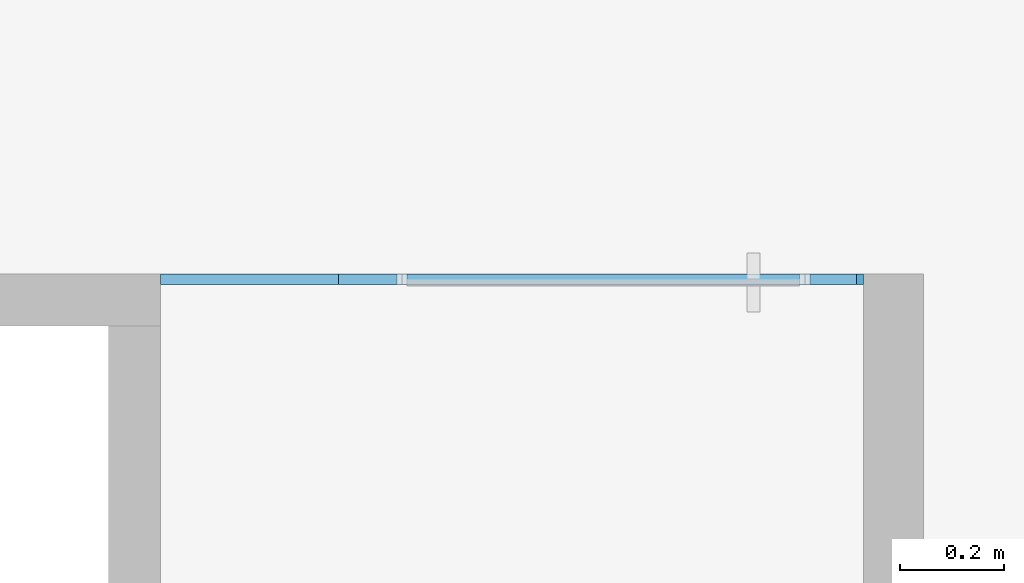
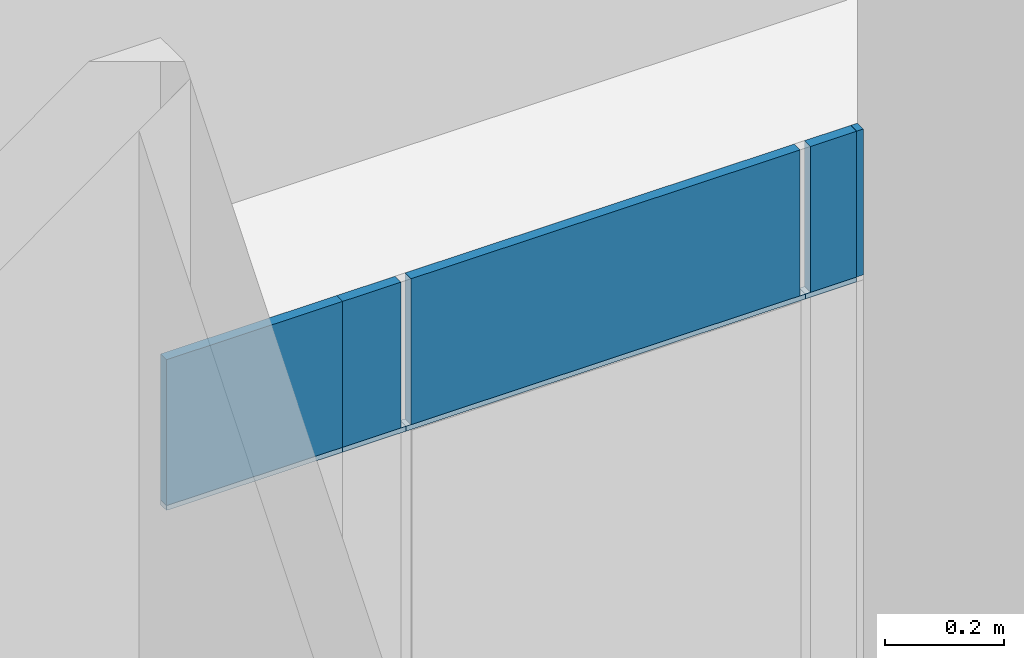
# One storey, part 32 of 66: 9 plates, 1 element without a shape of its own.
"""IFC2X3 building model written with IfcOpenShell, lengths in millimetres."""

from ifc_helpers import new_model, entity, si_unit, converted_unit, derived_unit, direction, frame, origin, origin_2d_with_axis, place, context, subcontext, project, spatial, rectangle, extrude, source, transform, mapped, material, layer, layer_set, layer_usage, type_object, type_shapes, element, aggregate, save


model = new_model("IFC2X3")

# Units and contexts
model_context = context("Model", 3, precision=0.01, world=origin(), true_north=direction((6.12303176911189e-17, 1.0)))
body_context = subcontext(model_context, "Body", "Model", "MODEL_VIEW")
ifc_project = project(units=[si_unit("LENGTHUNIT", "METRE", prefix="MILLI"), si_unit("AREAUNIT", "SQUARE_METRE"), si_unit("VOLUMEUNIT", "CUBIC_METRE"), converted_unit("PLANEANGLEUNIT", "DEGREE", entity("IfcRatioMeasure", 0.0174532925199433), si_unit("PLANEANGLEUNIT", "RADIAN"), dimensions=[0, 0, 0, 0, 0, 0, 0]), si_unit("MASSUNIT", "GRAM", prefix="KILO"), derived_unit("MASSDENSITYUNIT", [(si_unit("MASSUNIT", "GRAM", prefix="KILO"), 1), (si_unit("LENGTHUNIT", "METRE"), -3)]), si_unit("TIMEUNIT", "SECOND"), si_unit("FREQUENCYUNIT", "HERTZ"), si_unit("THERMODYNAMICTEMPERATUREUNIT", "DEGREE_CELSIUS"), derived_unit("THERMALTRANSMITTANCEUNIT", [(si_unit("MASSUNIT", "GRAM", prefix="KILO"), 1), (si_unit("THERMODYNAMICTEMPERATUREUNIT", "KELVIN"), -1), (si_unit("TIMEUNIT", "SECOND"), -3)]), derived_unit("VOLUMETRICFLOWRATEUNIT", [(si_unit("LENGTHUNIT", "METRE"), 3), (si_unit("TIMEUNIT", "SECOND"), -1)]), si_unit("ELECTRICCURRENTUNIT", "AMPERE"), si_unit("ELECTRICVOLTAGEUNIT", "VOLT"), si_unit("POWERUNIT", "WATT"), si_unit("FORCEUNIT", "NEWTON", prefix="KILO"), si_unit("ILLUMINANCEUNIT", "LUX"), si_unit("LUMINOUSFLUXUNIT", "LUMEN"), si_unit("LUMINOUSINTENSITYUNIT", "CANDELA"), derived_unit("USERDEFINED", [(si_unit("MASSUNIT", "GRAM", prefix="KILO"), -1), (si_unit("LENGTHUNIT", "METRE"), -2), (si_unit("TIMEUNIT", "SECOND"), 3), (si_unit("LUMINOUSFLUXUNIT", "LUMEN"), 1)]), derived_unit("LINEARVELOCITYUNIT", [(si_unit("LENGTHUNIT", "METRE"), 1), (si_unit("TIMEUNIT", "SECOND"), -1)]), si_unit("PRESSUREUNIT", "PASCAL"), derived_unit("USERDEFINED", [(si_unit("LENGTHUNIT", "METRE"), -2), (si_unit("MASSUNIT", "GRAM", prefix="KILO"), 1), (si_unit("TIMEUNIT", "SECOND"), -2)])], contexts=[model_context])

# Site, building, storey
site_placement = place(None, frame((-151.875543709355, 2715.0, 0.0)))
site = spatial("IfcSite", under=ifc_project, at=site_placement, Name="Surface", CompositionType="ELEMENT")
building_placement = place(site_placement, origin())
building = spatial("IfcBuilding", under=site, at=building_placement, CompositionType="ELEMENT")
storey_placement = place(building_placement, frame((0.0, 0.0, 3350.0)))
storey = spatial("IfcBuildingStorey", under=building, at=storey_placement, Name="2 korrus", CompositionType="ELEMENT", Elevation=3350.00000000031)

# Curtain wall, plates
curtain_wall_type = type_object("IfcCurtainWallType", Name="Curtain Wall:Klaassein KLS-10", PredefinedType="NOTDEFINED")
curtain_wall_placement = place(storey_placement, frame((0.0, 0.0, -3350.0)))
curtain_wall = element("IfcCurtainWall", 1, at=curtain_wall_placement, inside=storey, type_object=curtain_wall_type, Name="Curtain Wall:Klaassein KLS-10", ObjectType="Curtain Wall:Klaassein KLS-10")
ifc_material = material(Name="<Unnamed>")
ifc_layer = layer(ifc_material, 20.0)
ifc_layer_set = layer_set([ifc_layer], Name="Curtain Wall:Klaassein KLS-01")
ifc_layer_usage_1 = layer_usage(ifc_layer_set, "AXIS3", "POSITIVE", 0.0)
plate_type_1 = type_object("IfcPlateType", Name="Glazed", PredefinedType="CURTAIN_PANEL", material=ifc_layer_set)
shared_shape_1 = source(origin(), body_context, "Body", "SweptSolid", [
    extrude(rectangle(XDim=20.0, YDim=99.9999999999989, at=origin_2d_with_axis()), frame((0.0, 0.0, 0.0), z_axis=(0.0, 0.0, 1.0), x_axis=(0.0, 1.0, 0.0)), (0.0, 0.0, 1.0), 9.99999999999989),
])
type_shapes(plate_type_1, [shared_shape_1])
plate_1_placement = place(curtain_wall_placement, frame((6902.81503480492, 8850.0, 5440.0), z_axis=(0.0, 0.0, 1.0), x_axis=(-1.0, 0.0, 0.0)))
plate_1 = element("IfcPlate", 2, at=plate_1_placement, type_object=plate_type_1, material=ifc_layer_usage_1, Name="System Panel:Glazed", ObjectType="Glazed", context=body_context, shape_type="MappedRepresentation", body=[
    mapped(shared_shape_1, transform((0.0, 0.0, 0.0), scale=1.0)),
])
ifc_layer_usage_2 = layer_usage(ifc_layer_set, "AXIS3", "POSITIVE", 0.0)
plate_type_2 = type_object("IfcPlateType", Name="Glazed", PredefinedType="CURTAIN_PANEL", material=ifc_layer_set)
shared_shape_2 = source(origin(), body_context, "Body", "SweptSolid", [
    extrude(rectangle(XDim=20.0, YDim=89.999999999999, at=origin_2d_with_axis()), frame((0.0, 0.0, 0.0), z_axis=(0.0, 0.0, 1.0), x_axis=(0.0, 1.0, 0.0)), (0.0, 0.0, 1.0), 299.999999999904),
])
type_shapes(plate_type_2, [shared_shape_2])
plate_2_placement = place(curtain_wall_placement, frame((6907.81503480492, 8850.0, 5450.0), z_axis=(0.0, 0.0, 1.0), x_axis=(-1.0, 0.0, 0.0)))
plate_2 = element("IfcPlate", 3, at=plate_2_placement, type_object=plate_type_2, material=ifc_layer_usage_2, Name="System Panel:Glazed", ObjectType="Glazed", context=body_context, shape_type="MappedRepresentation", body=[
    mapped(shared_shape_2, transform((0.0, 0.0, 0.0), scale=1.0)),
])
ifc_layer_usage_3 = layer_usage(ifc_layer_set, "AXIS3", "POSITIVE", 0.0)
plate_type_3 = type_object("IfcPlateType", Name="Glazed", PredefinedType="CURTAIN_PANEL", material=ifc_layer_set)
shared_shape_3 = source(origin(), body_context, "Body", "SweptSolid", [
    extrude(rectangle(XDim=20.0, YDim=776.990561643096, at=origin_2d_with_axis()), frame((0.0, 0.0, 0.0), z_axis=(0.0, 0.0, 1.0), x_axis=(0.0, 1.0, 0.0)), (0.0, 0.0, 1.0), 9.99999999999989),
])
type_shapes(plate_type_3, [shared_shape_3])
plate_3_placement = place(curtain_wall_placement, frame((6464.31975398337, 8850.0, 5440.0), z_axis=(0.0, 0.0, 1.0), x_axis=(-1.0, 0.0, 0.0)))
plate_3 = element("IfcPlate", 4, at=plate_3_placement, type_object=plate_type_3, material=ifc_layer_usage_3, Name="System Panel:Glazed", ObjectType="Glazed", context=body_context, shape_type="MappedRepresentation", body=[
    mapped(shared_shape_3, transform((0.0, 0.0, 0.0), scale=1.0)),
])
ifc_layer_usage_4 = layer_usage(ifc_layer_set, "AXIS3", "POSITIVE", 0.0)
plate_type_4 = type_object("IfcPlateType", Name="Glazed", PredefinedType="CURTAIN_PANEL", material=ifc_layer_set)
shared_shape_4 = source(origin(), body_context, "Body", "SweptSolid", [
    extrude(rectangle(XDim=20.0, YDim=123.009438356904, at=origin_2d_with_axis()), frame((0.0, 0.0, 0.0), z_axis=(0.0, 0.0, 1.0), x_axis=(0.0, 1.0, 0.0)), (0.0, 0.0, 1.0), 9.99999999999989),
])
type_shapes(plate_type_4, [shared_shape_4])
plate_4_placement = place(curtain_wall_placement, frame((6014.31975398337, 8850.0, 5440.0), z_axis=(0.0, 0.0, 1.0), x_axis=(-1.0, 0.0, 0.0)))
plate_4 = element("IfcPlate", 5, at=plate_4_placement, type_object=plate_type_4, material=ifc_layer_usage_4, Name="System Panel:Glazed", ObjectType="Glazed", context=body_context, shape_type="MappedRepresentation", body=[
    mapped(shared_shape_4, transform((0.0, 0.0, 0.0), scale=1.0)),
])
ifc_layer_usage_5 = layer_usage(ifc_layer_set, "AXIS3", "POSITIVE", 0.0)
plate_type_5 = type_object("IfcPlateType", Name="Glazed", PredefinedType="CURTAIN_PANEL", material=ifc_layer_set)
shared_shape_5 = source(origin(), body_context, "Body", "SweptSolid", [
    extrude(rectangle(XDim=20.0, YDim=342.740635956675, at=origin_2d_with_axis()), frame((0.0, 0.0, 0.0), z_axis=(0.0, 0.0, 1.0), x_axis=(0.0, 1.0, 0.0)), (0.0, 0.0, 1.0), 9.99999999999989),
])
type_shapes(plate_type_5, [shared_shape_5])
plate_5_placement = place(curtain_wall_placement, frame((5781.44471682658, 8850.0, 5440.0), z_axis=(0.0, 0.0, 1.0), x_axis=(-1.0, 0.0, 0.0)))
plate_5 = element("IfcPlate", 6, at=plate_5_placement, type_object=plate_type_5, material=ifc_layer_usage_5, Name="System Panel:Glazed", ObjectType="Glazed", context=body_context, shape_type="MappedRepresentation", body=[
    mapped(shared_shape_5, transform((0.0, 0.0, 0.0), scale=1.0)),
])
ifc_layer_usage_6 = layer_usage(ifc_layer_set, "AXIS3", "POSITIVE", 0.0)
plate_type_6 = type_object("IfcPlateType", Name="Glazed", PredefinedType="CURTAIN_PANEL", material=ifc_layer_set)
shared_shape_6 = source(origin(), body_context, "Body", "SweptSolid", [
    extrude(rectangle(XDim=20.0, YDim=13.0094386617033, at=origin_2d_with_axis()), frame((0.0, 0.0, 0.0), z_axis=(0.0, 0.0, 1.0), x_axis=(0.0, 1.0, 0.0)), (0.0, 0.0, 1.0), 299.999999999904),
])
type_shapes(plate_type_6, [shared_shape_6])
plate_6_placement = place(curtain_wall_placement, frame((6959.31975413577, 8850.0, 5450.0), z_axis=(0.0, 0.0, 1.0), x_axis=(-1.0, 0.0, 0.0)))
plate_6 = element("IfcPlate", 7, at=plate_6_placement, type_object=plate_type_6, material=ifc_layer_usage_6, Name="System Panel:Glazed", ObjectType="Glazed", context=body_context, shape_type="MappedRepresentation", body=[
    mapped(shared_shape_6, transform((0.0, 0.0, 0.0), scale=1.0)),
])
ifc_layer_usage_7 = layer_usage(ifc_layer_set, "AXIS3", "POSITIVE", 0.0)
plate_type_7 = type_object("IfcPlateType", Name="Glazed", PredefinedType="CURTAIN_PANEL", material=ifc_layer_set)
shared_shape_7 = source(origin(), body_context, "Body", "SweptSolid", [
    extrude(rectangle(XDim=20.0, YDim=756.990561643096, at=origin_2d_with_axis()), frame((0.0, 0.0, 0.0), z_axis=(0.0, 0.0, 1.0), x_axis=(0.0, 1.0, 0.0)), (0.0, 0.0, 1.0), 299.999999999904),
])
type_shapes(plate_type_7, [shared_shape_7])
plate_7_placement = place(curtain_wall_placement, frame((6464.31975398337, 8850.0, 5450.0), z_axis=(0.0, 0.0, 1.0), x_axis=(-1.0, 0.0, 0.0)))
plate_7 = element("IfcPlate", 8, at=plate_7_placement, type_object=plate_type_7, material=ifc_layer_usage_7, Name="System Panel:Glazed", ObjectType="Glazed", context=body_context, shape_type="MappedRepresentation", body=[
    mapped(shared_shape_7, transform((0.0, 0.0, 0.0), scale=1.0)),
])
ifc_layer_usage_8 = layer_usage(ifc_layer_set, "AXIS3", "POSITIVE", 0.0)
plate_type_8 = type_object("IfcPlateType", Name="Glazed", PredefinedType="CURTAIN_PANEL", material=ifc_layer_set)
shared_shape_8 = source(origin(), body_context, "Body", "SweptSolid", [
    extrude(rectangle(XDim=20.0, YDim=113.009438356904, at=origin_2d_with_axis()), frame((0.0, 0.0, 0.0), z_axis=(0.0, 0.0, 1.0), x_axis=(0.0, 1.0, 0.0)), (0.0, 0.0, 1.0), 299.999999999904),
])
type_shapes(plate_type_8, [shared_shape_8])
plate_8_placement = place(curtain_wall_placement, frame((6009.31975398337, 8850.0, 5450.0), z_axis=(0.0, 0.0, 1.0), x_axis=(-1.0, 0.0, 0.0)))
plate_8 = element("IfcPlate", 9, at=plate_8_placement, type_object=plate_type_8, material=ifc_layer_usage_8, Name="System Panel:Glazed", ObjectType="Glazed", context=body_context, shape_type="MappedRepresentation", body=[
    mapped(shared_shape_8, transform((0.0, 0.0, 0.0), scale=1.0)),
])
ifc_layer_usage_9 = layer_usage(ifc_layer_set, "AXIS3", "POSITIVE", 0.0)
plate_type_9 = type_object("IfcPlateType", Name="Glazed", PredefinedType="CURTAIN_PANEL", material=ifc_layer_set)
shared_shape_9 = source(origin(), body_context, "Body", "SweptSolid", [
    extrude(rectangle(XDim=20.0, YDim=342.740635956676, at=origin_2d_with_axis()), frame((0.0, 0.0, 0.0), z_axis=(0.0, 0.0, 1.0), x_axis=(0.0, 1.0, 0.0)), (0.0, 0.0, 1.0), 299.999999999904),
])
type_shapes(plate_type_9, [shared_shape_9])
plate_9_placement = place(curtain_wall_placement, frame((5781.44471682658, 8850.0, 5450.0), z_axis=(0.0, 0.0, 1.0), x_axis=(-1.0, 0.0, 0.0)))
plate_9 = element("IfcPlate", 10, at=plate_9_placement, type_object=plate_type_9, material=ifc_layer_usage_9, Name="System Panel:Glazed", ObjectType="Glazed", context=body_context, shape_type="MappedRepresentation", body=[
    mapped(shared_shape_9, transform((0.0, 0.0, 0.0), scale=1.0)),
])
aggregate(curtain_wall, [plate_1, plate_3, plate_4, plate_5, plate_6, plate_2, plate_7, plate_8, plate_9])

save(model, "model.ifc")
